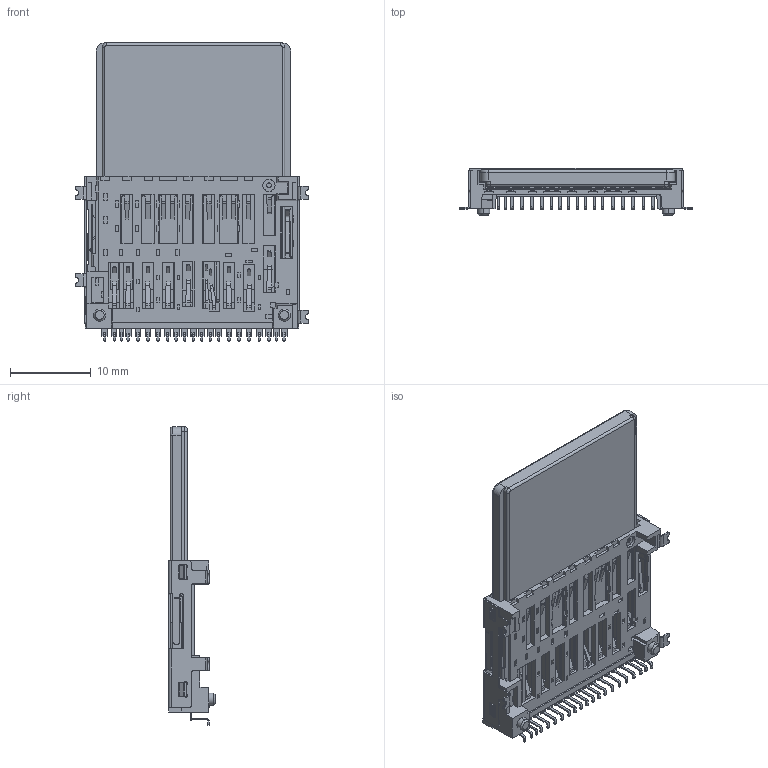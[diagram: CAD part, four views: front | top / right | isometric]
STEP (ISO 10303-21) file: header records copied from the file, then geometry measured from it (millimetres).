
FILE_DESCRIPTION((''),'2;1');
FILE_NAME('SD500-T1250-01__ASM','2024-01-17T11:02:00',('Administrator'),(''),'CREO PARAMETRIC BY PTC INC, 2022073','CREO PARAMETRIC BY PTC INC, 2022073','');
FILE_SCHEMA(('AP242_MANAGED_MODEL_BASED_3D_ENGINEERING_MIM_LF { 1 0 10303 442 1 1 4 }'));
Products named in the file (6): ____-__3__1; NONE_1; SD500__1PCS_000_100_ASM_1_ASM; ASM0002_ASM_1_ASM; 2; SD500-T1250-01__ASM
Assembly tree (5 placements, depth 4):
  SD500-T1250-01__ASM
    ASM0002_ASM_1_ASM
      SD500__1PCS_000_100_ASM_1_ASM
        ____-__3__1
        NONE_1
    2
Bounding box: 28.85 x 5.8 x 36.8 mm (x, y, z)
Volume: 2021.9 mm3; surface area: 4513.6 mm2
Topology: 2 solids, 5 shells, 2490 faces, 8100 edges, 5692 vertices
Faces by surface type: plane 1784, cylinder 608, bspline 75, sphere 16, cone 4, torus 3
Entity records: 93604 total; most frequent: CARTESIAN_POINT 19544, ORIENTED_EDGE 15956, DIRECTION 14699, EDGE_CURVE 7978, VERTEX_POINT 5586, VECTOR 5575, LINE 5575, AXIS2_PLACEMENT_3D 4562
